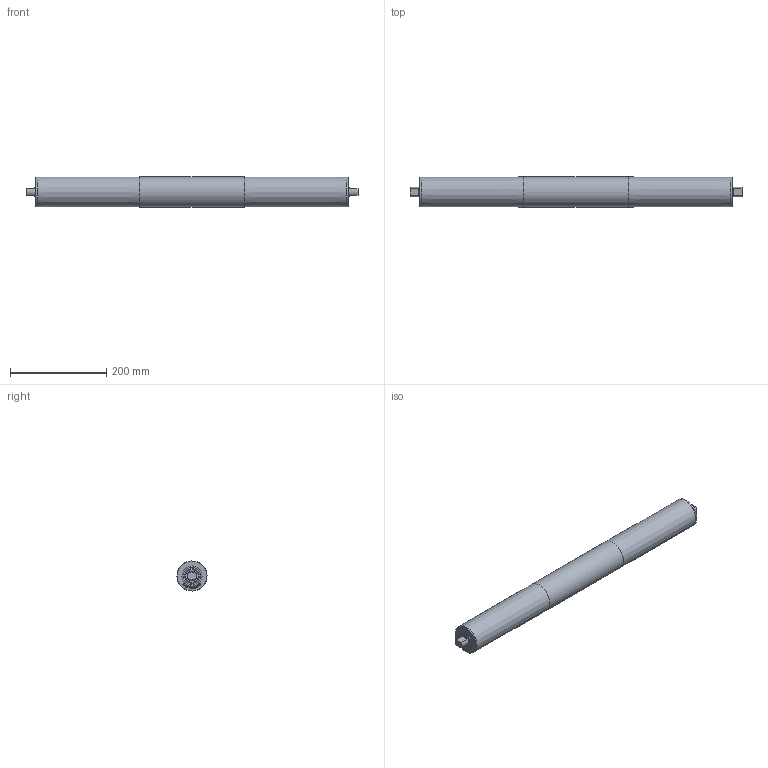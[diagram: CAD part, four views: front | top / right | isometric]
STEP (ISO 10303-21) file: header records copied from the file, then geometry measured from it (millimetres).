
FILE_DESCRIPTION(/* description */ (''),/* implementation_level */ '2;1');
FILE_NAME(/* name */ 'C:\WF_Ellegaard\Designs\00 standart komponenter\Tromlemotor\Scandrive S\Ø60\Scandrive S Ø60 RL650.stp',/* time_stamp */ '2017-04-19T18:00:10+02:00',/* author */ ('guh'),/* organization */ (''),/* preprocessor_version */ 'ST-DEVELOPER v15.6',/* originating_system */ 'Autodesk Inventor 2015',/* authorisation */ '');
FILE_SCHEMA (('AUTOMOTIVE_DESIGN { 1 0 10303 214 3 1 1 }'));
Length unit declared in the file: millimetre
Products named in the file (1): Scandrive S Ø60 RL650
Bounding box: 691 x 62.5 x 62.5 mm (x, y, z)
Volume: 433581.3 mm3; surface area: 253243.1 mm2
Topology: 1 solids, 2 shells, 454 faces, 1186 edges, 790 vertices
Faces by surface type: plane 236, bspline 196, cylinder 16, cone 4, torus 2
Full cylindrical faces by diameter (mm): 20 x2, 26 x2, 26.02 x2, 41.98 x2, 42 x2, 57 x1, 61.494 x2, 61.5 x2, 62.5 x1
Entity records: 14806 total; most frequent: CARTESIAN_POINT 4953, ORIENTED_EDGE 2324, DIRECTION 1336, EDGE_CURVE 1162, VERTEX_POINT 788, LINE 722, VECTOR 722, EDGE_LOOP 530
